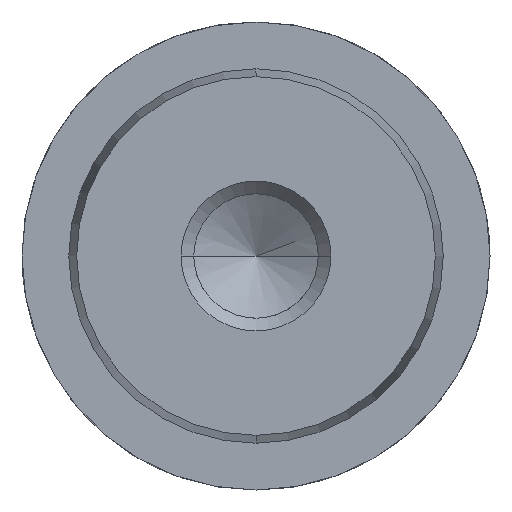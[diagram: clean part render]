
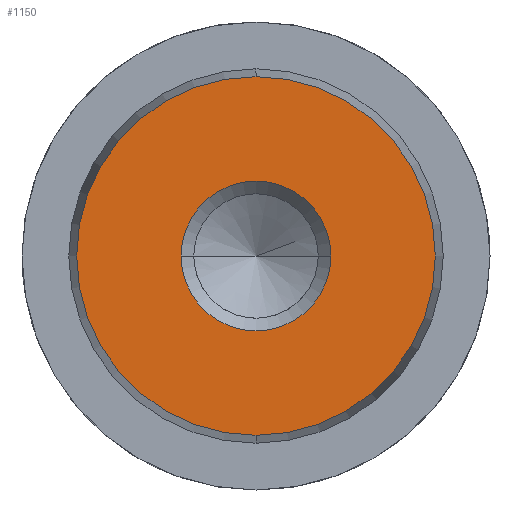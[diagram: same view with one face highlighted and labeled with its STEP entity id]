
A CAD part, left-side view. The second image highlights one B-rep face of the part: STEP entity #1150.
In plain terms, the highlighted planar face has unit normal (-1, 0, 0).
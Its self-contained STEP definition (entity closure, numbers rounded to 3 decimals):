
#1064=CARTESIAN_POINT('Vertex',(0.,0.,-9.578)) ;
#1067=CARTESIAN_POINT('Axis2P3D Location',(0.,0.,0.)) ;
#1071=CARTESIAN_POINT('Vertex',(0.,9.578,0.)) ;
#1074=CARTESIAN_POINT('Axis2P3D Location',(0.,0.,0.)) ;
#1078=CARTESIAN_POINT('Vertex',(0.,0.,9.578)) ;
#1100=CARTESIAN_POINT('Axis2P3D Location',(0.,0.,0.)) ;
#1104=CARTESIAN_POINT('Vertex',(0.,-9.578,0.)) ;
#1107=CARTESIAN_POINT('Axis2P3D Location',(0.,0.,0.)) ;
#1121=CARTESIAN_POINT('Axis2P3D Location',(0.,0.,0.)) ;
#1132=CARTESIAN_POINT('Axis2P3D Location',(0.,0.,0.)) ;
#1136=CARTESIAN_POINT('Vertex',(0.,4.,0.)) ;
#1138=CARTESIAN_POINT('Vertex',(0.,-4.,0.)) ;
#1141=CARTESIAN_POINT('Axis2P3D Location',(0.,0.,0.)) ;
#1068=DIRECTION('Axis2P3D Direction',(1.,0.,-0.)) ;
#1075=DIRECTION('Axis2P3D Direction',(1.,0.,-0.)) ;
#1101=DIRECTION('Axis2P3D Direction',(1.,0.,-0.)) ;
#1108=DIRECTION('Axis2P3D Direction',(1.,0.,-0.)) ;
#1122=DIRECTION('Axis2P3D Direction',(1.,0.,-0.)) ;
#1123=DIRECTION('Axis2P3D XDirection',(-0.,0.,-1.)) ;
#1133=DIRECTION('Axis2P3D Direction',(1.,0.,-0.)) ;
#1142=DIRECTION('Axis2P3D Direction',(1.,0.,-0.)) ;
#1069=AXIS2_PLACEMENT_3D('Circle Axis2P3D',#1067,#1068,$) ;
#1076=AXIS2_PLACEMENT_3D('Circle Axis2P3D',#1074,#1075,$) ;
#1102=AXIS2_PLACEMENT_3D('Circle Axis2P3D',#1100,#1101,$) ;
#1109=AXIS2_PLACEMENT_3D('Circle Axis2P3D',#1107,#1108,$) ;
#1124=AXIS2_PLACEMENT_3D('Plane Axis2P3D',#1121,#1122,#1123) ;
#1134=AXIS2_PLACEMENT_3D('Circle Axis2P3D',#1132,#1133,$) ;
#1143=AXIS2_PLACEMENT_3D('Circle Axis2P3D',#1141,#1142,$) ;
#1127=ORIENTED_EDGE('',*,*,#1073,.F.) ;
#1128=ORIENTED_EDGE('',*,*,#1111,.F.) ;
#1129=ORIENTED_EDGE('',*,*,#1106,.F.) ;
#1130=ORIENTED_EDGE('',*,*,#1080,.F.) ;
#1147=ORIENTED_EDGE('',*,*,#1140,.T.) ;
#1148=ORIENTED_EDGE('',*,*,#1145,.T.) ;
#1149=FACE_BOUND('',#1146,.T.) ;
#1150=ADVANCED_FACE('718-20x160',(#1131,#1149),#1125,.F.) ;
#1070=CIRCLE('generated circle',#1069,9.578) ;
#1077=CIRCLE('generated circle',#1076,9.578) ;
#1103=CIRCLE('generated circle',#1102,9.578) ;
#1110=CIRCLE('generated circle',#1109,9.578) ;
#1135=CIRCLE('generated circle',#1134,4.) ;
#1144=CIRCLE('generated circle',#1143,4.) ;
#1073=EDGE_CURVE('',#1065,#1072,#1070,.T.) ;
#1080=EDGE_CURVE('',#1072,#1079,#1077,.T.) ;
#1106=EDGE_CURVE('',#1079,#1105,#1103,.T.) ;
#1111=EDGE_CURVE('',#1105,#1065,#1110,.T.) ;
#1140=EDGE_CURVE('',#1137,#1139,#1135,.T.) ;
#1145=EDGE_CURVE('',#1139,#1137,#1144,.T.) ;
#1126=EDGE_LOOP('',(#1127,#1128,#1129,#1130)) ;
#1146=EDGE_LOOP('',(#1147,#1148)) ;
#1131=FACE_OUTER_BOUND('',#1126,.T.) ;
#1125=PLANE('Plane',#1124) ;
#1065=VERTEX_POINT('',#1064) ;
#1072=VERTEX_POINT('',#1071) ;
#1079=VERTEX_POINT('',#1078) ;
#1105=VERTEX_POINT('',#1104) ;
#1137=VERTEX_POINT('',#1136) ;
#1139=VERTEX_POINT('',#1138) ;
